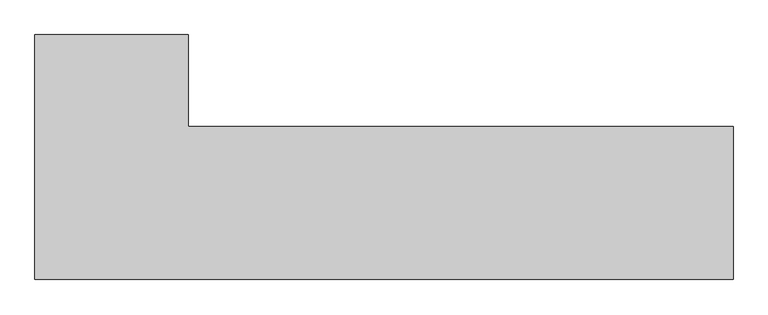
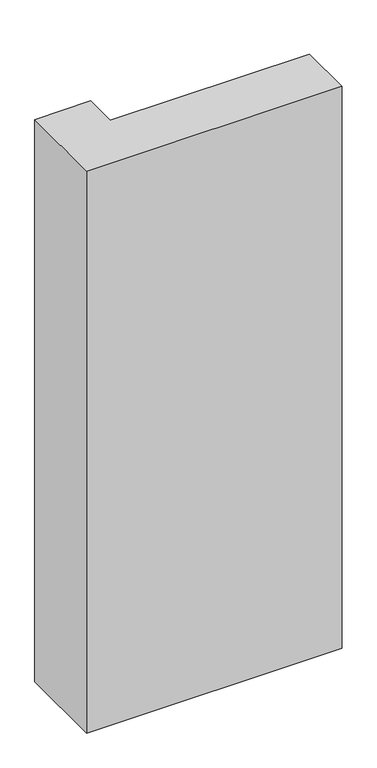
"""IFC4 building model written with IfcOpenShell, lengths in millimetres: column geometry, Columna Estructural Ele : ECO_Ele 40x114x25."""

from ifc_helpers import new_model, si_unit, frame, origin, place, context, project, spatial, polyline, outline, extrude, source, transform, mapped, element, save


def column_7de82d65(model_context):
    return source(origin(), model_context, "Body", "SweptSolid", [
        extrude(outline(polyline([(125.0, 275.0), (125.0, 125.0), (1015.0, 125.0), (1015.0, -125.0), (-125.0, -125.0), (-125.0, 275.0), (125.0, 275.0)])), frame((0.0, 0.0, 2750.0), z_axis=(0.0, 0.0, 1.0), x_axis=(1.0, 0.0, 0.0)), (0.0, 0.0, 1.0), 2650.0),
    ])


if __name__ == "__main__":
    model = new_model("IFC4")
    model_context = context("Model", 3, world=origin())
    ifc_project = project(units=[si_unit("LENGTHUNIT", "METRE", prefix="MILLI")], contexts=[model_context])
    site = spatial("IfcSite", under=ifc_project)
    building = spatial("IfcBuilding", under=site)
    placement = place(None, origin())
    column_shape = column_7de82d65(model_context)
    element("IfcColumn", 1, ObjectType="Columna Estructural Ele : ECO_Ele 40x114x25", at=placement, inside=building, context=model_context, shape_type="MappedRepresentation", body=[
        mapped(column_shape, transform((0.0, 0.0, 0.0), x_axis=(1.0, 0.0, 0.0), y_axis=(0.0, 1.0, 0.0), z_axis=(0.0, 0.0, 1.0))),
    ])
    save(model, "model.ifc")
